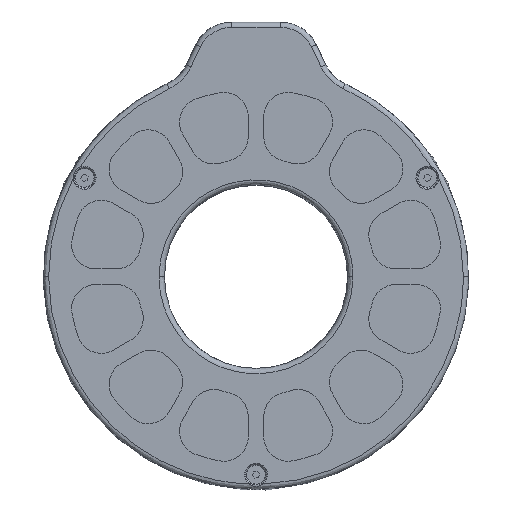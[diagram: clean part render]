
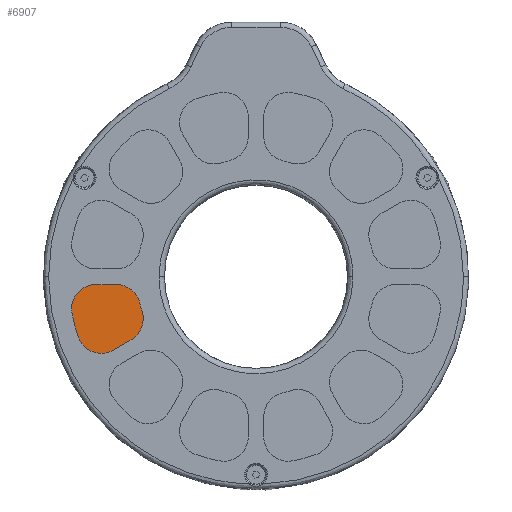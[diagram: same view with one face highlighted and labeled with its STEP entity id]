
A CAD part, top view. The second image highlights one B-rep face of the part: STEP entity #6907.
In plain terms, the highlighted planar face has unit normal (0, 0, 1).
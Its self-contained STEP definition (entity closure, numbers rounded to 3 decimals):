
#393 = CARTESIAN_POINT ( 'NONE',  ( -35.565, -1.017, 1.5 ) ) ;
#738 = LINE ( 'NONE', #19242, #29780 ) ;
#1403 = EDGE_CURVE ( 'NONE', #10960, #27744, #14467, .T. ) ;
#1508 = CARTESIAN_POINT ( 'NONE',  ( -23.516, -2.676, 1.5 ) ) ;
#1564 =( BOUNDED_CURVE ( )  B_SPLINE_CURVE ( 3, ( #25715, #27975, #12082, #2535 ),
 .UNSPECIFIED., .F., .T. ) 
 B_SPLINE_CURVE_WITH_KNOTS ( ( 4, 4 ),
 ( 0., 1. ),
 .UNSPECIFIED. ) 
 CURVE ( )  GEOMETRIC_REPRESENTATION_ITEM ( )  RATIONAL_B_SPLINE_CURVE ( ( 1., 1., 1., 1. ) ) 
 REPRESENTATION_ITEM ( '' )  );
#1724 = CARTESIAN_POINT ( 'NONE',  ( -31.768, -17.167, 1.5 ) ) ;
#1938 = ORIENTED_EDGE ( 'NONE', *, *, #4265, .F. ) ;
#2312 = CARTESIAN_POINT ( 'NONE',  ( -28.262, -1.017, 1.5 ) ) ;
#2535 = CARTESIAN_POINT ( 'NONE',  ( -22.484, -6.895, 1.5 ) ) ;
#2745 = VERTEX_POINT ( 'NONE', #22602 ) ;
#2939 = DIRECTION ( 'NONE',  ( 1., 0., 0. ) ) ;
#3408 = ORIENTED_EDGE ( 'NONE', *, *, #25418, .F. ) ;
#3806 = CARTESIAN_POINT ( 'NONE',  ( -25.599, -1.017, 1.5 ) ) ;
#4265 = EDGE_CURVE ( 'NONE', #25988, #2745, #26107, .T. ) ;
#4297 = CARTESIAN_POINT ( 'NONE',  ( -36.464, -12.3, 1.5 ) ) ;
#4958 = CARTESIAN_POINT ( 'NONE',  ( -37.836, -6.5, 1.5 ) ) ;
#6228 =( BOUNDED_CURVE ( )  B_SPLINE_CURVE ( 3, ( #20061, #22472, #22029, #6405 ),
 .UNSPECIFIED., .F., .F. ) 
 B_SPLINE_CURVE_WITH_KNOTS ( ( 4, 4 ),
 ( 0., 1. ),
 .UNSPECIFIED. ) 
 CURVE ( )  GEOMETRIC_REPRESENTATION_ITEM ( )  RATIONAL_B_SPLINE_CURVE ( ( 1., 0.997, 0.997, 1. ) ) 
 REPRESENTATION_ITEM ( '' )  );
#6280 = CARTESIAN_POINT ( 'NONE',  ( -22.919, -5.271, 1.5 ) ) ;
#6405 = CARTESIAN_POINT ( 'NONE',  ( -37.836, -6.5, 1.5 ) ) ;
#6869 = EDGE_CURVE ( 'NONE', #21677, #12852, #6228, .T. ) ;
#6907 = ADVANCED_FACE ( 'NONE', ( #22616 ), #12939, .F. ) ;
#7064 = ORIENTED_EDGE ( 'NONE', *, *, #28722, .F. ) ;
#7469 = CARTESIAN_POINT ( 'NONE',  ( -24.984, -13.25, 1.5 ) ) ;
#8089 = CARTESIAN_POINT ( 'NONE',  ( -18.345, 36.199, 1.5 ) ) ;
#8488 = ORIENTED_EDGE ( 'NONE', *, *, #1403, .F. ) ;
#9443 = CARTESIAN_POINT ( 'NONE',  ( -22.678, -11.919, 1.5 ) ) ;
#9452 = VERTEX_POINT ( 'NONE', #25990 ) ;
#10960 = VERTEX_POINT ( 'NONE', #16084 ) ;
#11027 = ORIENTED_EDGE ( 'NONE', *, *, #16735, .F. ) ;
#11105 = DIRECTION ( 'NONE',  ( 0., 0., -1. ) ) ;
#11269 = CARTESIAN_POINT ( 'NONE',  ( -36.986, -10.755, 1.5 ) ) ;
#11426 = CARTESIAN_POINT ( 'NONE',  ( -37.729, -7.58, 1.5 ) ) ;
#11725 = VERTEX_POINT ( 'NONE', #23843 ) ;
#12082 = CARTESIAN_POINT ( 'NONE',  ( -22.648, -6.359, 1.5 ) ) ;
#12157 = CARTESIAN_POINT ( 'NONE',  ( -22.484, -6.895, 1.5 ) ) ;
#12852 = VERTEX_POINT ( 'NONE', #14318 ) ;
#12939 = PLANE ( 'NONE',  #19171 ) ;
#13453 = EDGE_LOOP ( 'NONE', ( #28140, #3408, #7064, #29911, #8488, #11027, #18169, #26209, #1938 ) ) ;
#14198 = CARTESIAN_POINT ( 'NONE',  ( -37.836, -3.288, 1.5 ) ) ;
#14318 = CARTESIAN_POINT ( 'NONE',  ( -37.836, -6.5, 1.5 ) ) ;
#14325 =( BOUNDED_CURVE ( )  B_SPLINE_CURVE ( 3, ( #12157, #16547, #9443, #7469 ),
 .UNSPECIFIED., .F., .F. ) 
 B_SPLINE_CURVE_WITH_KNOTS ( ( 4, 4 ),
 ( 0., 1. ),
 .UNSPECIFIED. ) 
 CURVE ( )  GEOMETRIC_REPRESENTATION_ITEM ( )  RATIONAL_B_SPLINE_CURVE ( ( 1., 0.855, 0.855, 1. ) ) 
 REPRESENTATION_ITEM ( '' )  );
#14467 = LINE ( 'NONE', #17193, #16174 ) ;
#14491 = CARTESIAN_POINT ( 'NONE',  ( -32.354, -1.017, 1.5 ) ) ;
#15332 = CARTESIAN_POINT ( 'NONE',  ( -28.262, -1.017, 1.5 ) ) ;
#16084 = CARTESIAN_POINT ( 'NONE',  ( -32.354, -1.017, 1.5 ) ) ;
#16174 = VECTOR ( 'NONE', #2939, 1000. ) ;
#16547 = CARTESIAN_POINT ( 'NONE',  ( -21.703, -9.441, 1.5 ) ) ;
#16735 = EDGE_CURVE ( 'NONE', #12852, #10960, #19043, .T. ) ;
#17193 = CARTESIAN_POINT ( 'NONE',  ( 0., -1.017, 1.5 ) ) ;
#17328 = DIRECTION ( 'NONE',  ( -1., 0., 0. ) ) ;
#17935 = CARTESIAN_POINT ( 'NONE',  ( -35.268, -15.845, 1.5 ) ) ;
#17939 = CARTESIAN_POINT ( 'NONE',  ( -37.408, -9.179, 1.5 ) ) ;
#18088 = CARTESIAN_POINT ( 'NONE',  ( -28.528, -15.296, 1.5 ) ) ;
#18169 = ORIENTED_EDGE ( 'NONE', *, *, #6869, .F. ) ;
#18390 = EDGE_CURVE ( 'NONE', #27744, #21566, #28193, .T. ) ;
#19043 =( BOUNDED_CURVE ( )  B_SPLINE_CURVE ( 3, ( #4958, #14198, #393, #14491 ),
 .UNSPECIFIED., .F., .F. ) 
 B_SPLINE_CURVE_WITH_KNOTS ( ( 4, 4 ),
 ( 0., 1. ),
 .UNSPECIFIED. ) 
 CURVE ( )  GEOMETRIC_REPRESENTATION_ITEM ( )  RATIONAL_B_SPLINE_CURVE ( ( 1., 0.805, 0.805, 1. ) ) 
 REPRESENTATION_ITEM ( '' )  );
#19171 = AXIS2_PLACEMENT_3D ( 'NONE', #8089, #11105, #17328 ) ;
#19242 = CARTESIAN_POINT ( 'NONE',  ( 3.557, 3.228, 1.5 ) ) ;
#19547 =( BOUNDED_CURVE ( )  B_SPLINE_CURVE ( 3, ( #4297, #11269, #17939, #27469 ),
 .UNSPECIFIED., .F., .F. ) 
 B_SPLINE_CURVE_WITH_KNOTS ( ( 4, 4 ),
 ( 0., 1. ),
 .UNSPECIFIED. ) 
 CURVE ( )  GEOMETRIC_REPRESENTATION_ITEM ( )  RATIONAL_B_SPLINE_CURVE ( ( 1., 0.999, 0.999, 1. ) ) 
 REPRESENTATION_ITEM ( '' )  );
#19867 = CARTESIAN_POINT ( 'NONE',  ( -22.919, -5.271, 1.5 ) ) ;
#20061 = CARTESIAN_POINT ( 'NONE',  ( -37.729, -7.58, 1.5 ) ) ;
#21566 = VERTEX_POINT ( 'NONE', #6280 ) ;
#21677 = VERTEX_POINT ( 'NONE', #11426 ) ;
#22029 = CARTESIAN_POINT ( 'NONE',  ( -37.836, -6.863, 1.5 ) ) ;
#22472 = CARTESIAN_POINT ( 'NONE',  ( -37.8, -7.224, 1.5 ) ) ;
#22602 = CARTESIAN_POINT ( 'NONE',  ( -36.464, -12.3, 1.5 ) ) ;
#22616 = FACE_OUTER_BOUND ( 'NONE', #13453, .T. ) ;
#22925 = CARTESIAN_POINT ( 'NONE',  ( -36.464, -12.3, 1.5 ) ) ;
#23843 = CARTESIAN_POINT ( 'NONE',  ( -24.984, -13.25, 1.5 ) ) ;
#24328 = EDGE_CURVE ( 'NONE', #11725, #25988, #738, .T. ) ;
#25320 = EDGE_CURVE ( 'NONE', #2745, #21677, #19547, .T. ) ;
#25418 = EDGE_CURVE ( 'NONE', #9452, #11725, #14325, .T. ) ;
#25715 = CARTESIAN_POINT ( 'NONE',  ( -22.919, -5.271, 1.5 ) ) ;
#25988 = VERTEX_POINT ( 'NONE', #28249 ) ;
#25990 = CARTESIAN_POINT ( 'NONE',  ( -22.484, -6.895, 1.5 ) ) ;
#26107 =( BOUNDED_CURVE ( )  B_SPLINE_CURVE ( 3, ( #18088, #1724, #17935, #22925 ),
 .UNSPECIFIED., .F., .F. ) 
 B_SPLINE_CURVE_WITH_KNOTS ( ( 4, 4 ),
 ( 0., 1. ),
 .UNSPECIFIED. ) 
 CURVE ( )  GEOMETRIC_REPRESENTATION_ITEM ( )  RATIONAL_B_SPLINE_CURVE ( ( 1., 0.756, 0.756, 1. ) ) 
 REPRESENTATION_ITEM ( '' )  );
#26209 = ORIENTED_EDGE ( 'NONE', *, *, #25320, .F. ) ;
#27469 = CARTESIAN_POINT ( 'NONE',  ( -37.729, -7.58, 1.5 ) ) ;
#27744 = VERTEX_POINT ( 'NONE', #2312 ) ;
#27975 = CARTESIAN_POINT ( 'NONE',  ( -22.793, -5.817, 1.5 ) ) ;
#28140 = ORIENTED_EDGE ( 'NONE', *, *, #24328, .F. ) ;
#28193 =( BOUNDED_CURVE ( )  B_SPLINE_CURVE ( 3, ( #15332, #3806, #1508, #19867 ),
 .UNSPECIFIED., .F., .F. ) 
 B_SPLINE_CURVE_WITH_KNOTS ( ( 4, 4 ),
 ( 0., 1. ),
 .UNSPECIFIED. ) 
 CURVE ( )  GEOMETRIC_REPRESENTATION_ITEM ( )  RATIONAL_B_SPLINE_CURVE ( ( 1., 0.855, 0.855, 1. ) ) 
 REPRESENTATION_ITEM ( '' )  );
#28249 = CARTESIAN_POINT ( 'NONE',  ( -28.528, -15.296, 1.5 ) ) ;
#28464 = DIRECTION ( 'NONE',  ( -0.866, -0.5, 0. ) ) ;
#28722 = EDGE_CURVE ( 'NONE', #21566, #9452, #1564, .T. ) ;
#29780 = VECTOR ( 'NONE', #28464, 1000. ) ;
#29911 = ORIENTED_EDGE ( 'NONE', *, *, #18390, .F. ) ;
